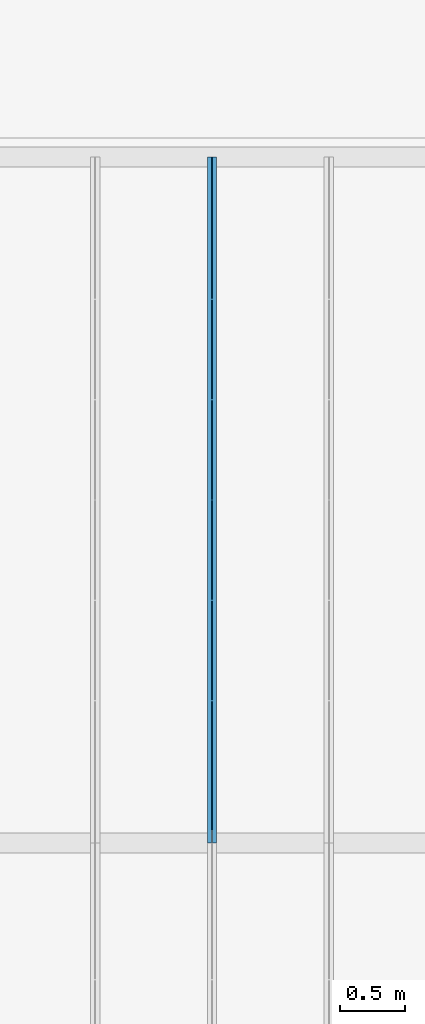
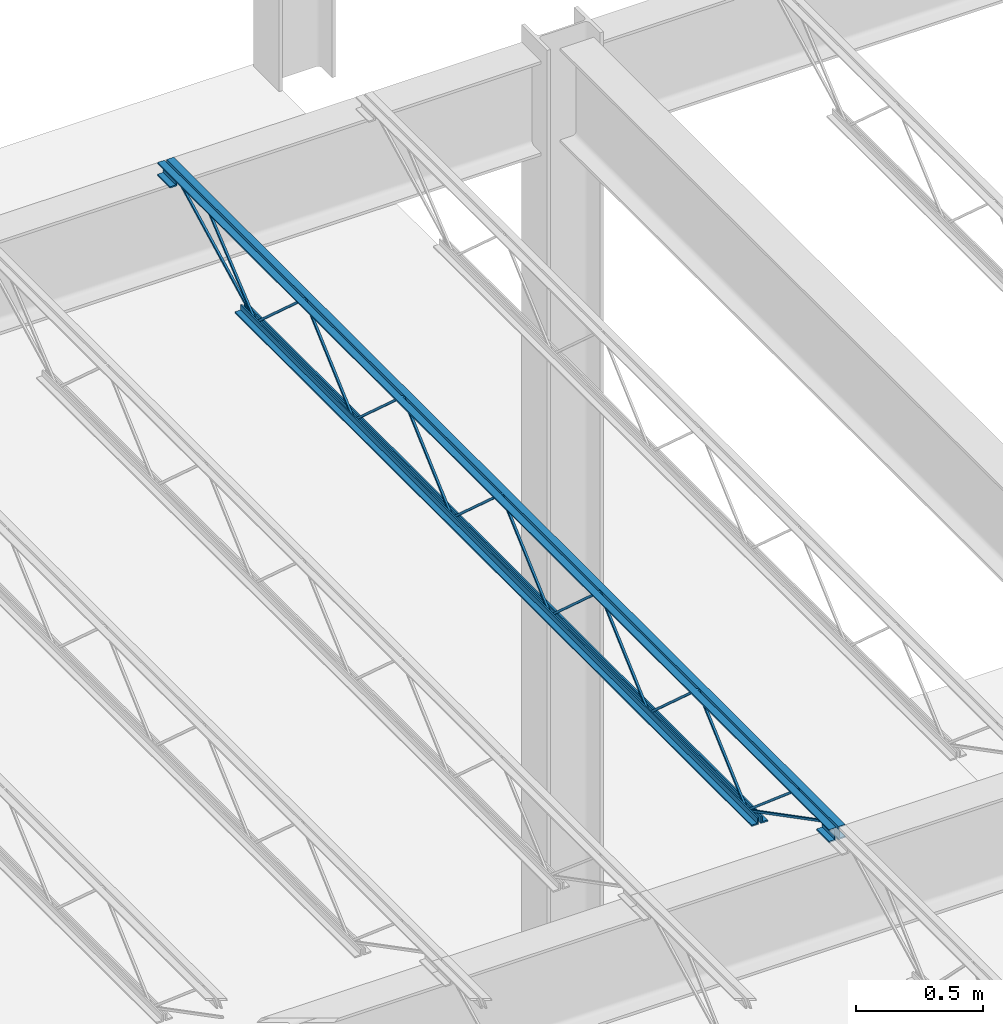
# One storey, part 79 of 119: 1 beam.
"""IFC2X3 building model written with IfcOpenShell, lengths in metres."""

from ifc_helpers import new_model, entity, si_unit, converted_unit, frame, origin, place, context, project, spatial, face_set, surface_model, element, save


model = new_model("IFC2X3")

# Units and contexts
model_context = context("Model", 3, precision=1e-09, world=origin())
plan_context = context("Plan", 3, precision=1e-09, world=origin())
ifc_project = project(units=[si_unit("LENGTHUNIT", "METRE"), si_unit("AREAUNIT", "SQUARE_METRE"), si_unit("VOLUMEUNIT", "CUBIC_METRE"), converted_unit("PLANEANGLEUNIT", "DEGREE", entity("IfcRatioMeasure", 0.01745329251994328), si_unit("PLANEANGLEUNIT", "RADIAN"), dimensions=[0, 0, 0, 0, 0, 0, 0]), si_unit("TIMEUNIT", "SECOND")], contexts=[model_context, plan_context])

# Site, building, storey
site_placement = place(None, origin())
site = spatial("IfcSite", under=ifc_project, at=site_placement, Name="Default", CompositionType="ELEMENT")
building_placement = place(site_placement, origin())
building = spatial("IfcBuilding", under=site, at=building_placement, CompositionType="ELEMENT")
storey_placement = place(building_placement, frame((0.0, 0.0, 4.570000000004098)))
storey = spatial("IfcBuildingStorey", under=building, at=storey_placement, Name="Second Floor", CompositionType="ELEMENT", Elevation=4.570000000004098)

# Beam
beam_placement = place(storey_placement, frame((-42.50817857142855, 44.78050000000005, 4.323999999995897), z_axis=(0.0, 0.0, 1.0), x_axis=(-1.0, 0.0, 0.0)))
element("IfcBeam", 1, at=beam_placement, inside=storey, Name="M_K-Series Bar Joist-Rod Web:14K1:14K1", ObjectType="M_K-Series Bar Joist-Rod Web:14K1", context=model_context, shape_type="SurfaceModel", body=[
    surface_model("IfcFaceBasedSurfaceModel", [(-0.0320000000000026, -2.266000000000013, 0.01110000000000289), (-0.0415000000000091, -2.266000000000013, 0.01110000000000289), (-0.0415000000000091, -2.266000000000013, 0.001600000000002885), (-0.0320000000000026, -2.266000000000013, 0.001600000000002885), (-0.04150000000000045, -2.264645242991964, 0.01110000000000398), (-0.0320000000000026, -2.264645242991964, 0.01110000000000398), (-0.04150000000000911, -2.26100475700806, 0.001600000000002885), (-0.04150000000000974, -1.878854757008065, 0.3449000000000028), (-0.04150000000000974, -1.876145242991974, 0.3449000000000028), (-0.04150000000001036, -1.493995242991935, 0.001600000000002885), (-0.04150000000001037, -1.489000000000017, 0.001600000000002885), (-0.04150000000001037, -1.489000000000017, 0.01110000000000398), (-0.04150000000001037, -1.490354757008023, 0.01110000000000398), (-0.04150000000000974, -1.872504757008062, 0.3544000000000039), (-0.04150000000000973, -1.882495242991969, 0.3544000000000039), (-0.03200000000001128, -2.26100475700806, 0.001600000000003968), (-0.03200000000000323, -1.878854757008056, 0.3449000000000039), (-0.03200000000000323, -1.876145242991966, 0.3449000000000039), (-0.03200000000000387, -1.493995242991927, 0.001600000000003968), (-0.03200000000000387, -1.489000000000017, 0.001600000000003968), (-0.03200000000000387, -1.489000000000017, 0.01110000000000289), (-0.03200000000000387, -1.490354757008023, 0.01110000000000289), (-0.03200000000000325, -1.872504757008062, 0.3544000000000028), (-0.03200000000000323, -1.882495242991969, 0.3544000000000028), (-0.03200000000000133, -3.04300000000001, 0.01110000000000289), (-0.04150000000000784, -3.04300000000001, 0.01110000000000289), (-0.04150000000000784, -3.04300000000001, 0.001600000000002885), (-0.03200000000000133, -3.04300000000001, 0.001600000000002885), (-0.04149999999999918, -3.041645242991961, 0.01110000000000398), (-0.03200000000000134, -3.041645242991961, 0.01110000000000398), (-0.04150000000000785, -3.038004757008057, 0.001600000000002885), (-0.04150000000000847, -2.655854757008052, 0.3449000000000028), (-0.04150000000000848, -2.653145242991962, 0.3449000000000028), (-0.0415000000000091, -2.270995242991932, 0.001600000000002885), (-0.0415000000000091, -2.266000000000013, 0.01110000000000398), (-0.0415000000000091, -2.26735475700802, 0.01110000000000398), (-0.04150000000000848, -2.649504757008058, 0.3544000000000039), (-0.04150000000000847, -2.659495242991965, 0.3544000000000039), (-0.03200000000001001, -3.038004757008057, 0.001600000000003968), (-0.03200000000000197, -2.655854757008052, 0.3449000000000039), (-0.03200000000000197, -2.653145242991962, 0.3449000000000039), (-0.0320000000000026, -2.270995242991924, 0.001600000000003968), (-0.0320000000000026, -2.266000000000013, 0.001600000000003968), (-0.0320000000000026, -2.26735475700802, 0.01110000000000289), (-0.03200000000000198, -2.649504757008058, 0.3544000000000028), (-0.03200000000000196, -2.659495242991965, 0.3544000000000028), (-0.03200000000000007, -3.820000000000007, 0.01110000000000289), (-0.04150000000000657, -3.820000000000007, 0.01110000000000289), (-0.04150000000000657, -3.820000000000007, 0.001600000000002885), (-0.03200000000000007, -3.820000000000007, 0.001600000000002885), (-0.04149999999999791, -3.818645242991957, 0.01110000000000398), (-0.03200000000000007, -3.818645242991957, 0.01110000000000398), (-0.04150000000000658, -3.815004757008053, 0.001600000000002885), (-0.0415000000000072, -3.432854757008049, 0.3449000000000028), (-0.04150000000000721, -3.430145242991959, 0.3449000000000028), (-0.04150000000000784, -3.04799524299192, 0.001600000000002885), (-0.04150000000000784, -3.043000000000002, 0.001600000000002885), (-0.04150000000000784, -3.04300000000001, 0.01110000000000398), (-0.04150000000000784, -3.044354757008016, 0.01110000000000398), (-0.04150000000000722, -3.426504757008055, 0.3544000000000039), (-0.0415000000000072, -3.436495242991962, 0.3544000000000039), (-0.03200000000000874, -3.815004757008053, 0.001600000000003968), (-0.0320000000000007, -3.432854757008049, 0.3449000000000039), (-0.0320000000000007, -3.430145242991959, 0.3449000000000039), (-0.03200000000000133, -3.04799524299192, 0.001600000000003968), (-0.03200000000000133, -3.04300000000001, 0.001600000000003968), (-0.03200000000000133, -3.043000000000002, 0.01110000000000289), (-0.03200000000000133, -3.044354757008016, 0.01110000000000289), (-0.03200000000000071, -3.426504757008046, 0.3544000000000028), (-0.0320000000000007, -3.436495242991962, 0.3544000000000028), (-0.03200000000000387, -1.489000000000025, 0.01109999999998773), (-0.04150000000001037, -1.489000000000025, 0.01109999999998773), (-0.04150000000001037, -1.489000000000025, 0.001599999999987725), (-0.03200000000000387, -1.489000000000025, 0.001599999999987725), (-0.04150000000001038, -1.487645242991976, 0.01109999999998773), (-0.03200000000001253, -1.487645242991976, 0.01109999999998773), (-0.04150000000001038, -1.484004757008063, 0.001599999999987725), (-0.04150000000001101, -1.101854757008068, 0.3448999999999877), (-0.04150000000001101, -1.099145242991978, 0.3448999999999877), (-0.04150000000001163, -0.7169952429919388, 0.001599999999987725), (-0.04150000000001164, -0.7120000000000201, 0.001599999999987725), (-0.04150000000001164, -0.7120000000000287, 0.01109999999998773), (-0.04150000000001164, -0.7133547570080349, 0.01109999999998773), (-0.04150000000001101, -1.095504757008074, 0.3543999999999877), (-0.04150000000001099, -1.10549524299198, 0.3543999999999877), (-0.03200000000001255, -1.484004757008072, 0.001599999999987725), (-0.03200000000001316, -1.101854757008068, 0.3448999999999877), (-0.03200000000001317, -1.099145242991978, 0.3448999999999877), (-0.03200000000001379, -0.7169952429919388, 0.001599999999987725), (-0.0320000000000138, -0.7120000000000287, 0.001599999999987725), (-0.03200000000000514, -0.7120000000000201, 0.01109999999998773), (-0.0320000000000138, -0.7133547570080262, 0.01109999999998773), (-0.03200000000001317, -1.095504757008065, 0.3543999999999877), (-0.03200000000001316, -1.105495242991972, 0.3543999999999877), (-0.0319999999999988, -4.597000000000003, 0.01110000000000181), (-0.0415000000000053, -4.597000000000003, 0.01110000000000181), (-0.0415000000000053, -4.597000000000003, 0.001600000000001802), (-0.0319999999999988, -4.597000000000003, 0.001600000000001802), (-0.04149999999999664, -4.595645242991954, 0.01110000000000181), (-0.0319999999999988, -4.595645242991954, 0.01110000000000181), (-0.04150000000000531, -4.592004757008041, 0.001600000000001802), (-0.04150000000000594, -4.209854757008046, 0.3449000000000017), (-0.04150000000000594, -4.207145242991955, 0.3449000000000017), (-0.04150000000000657, -3.824995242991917, 0.001600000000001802), (-0.04150000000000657, -3.819999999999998, 0.001600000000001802), (-0.04150000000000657, -3.820000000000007, 0.01110000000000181), (-0.04150000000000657, -3.821354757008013, 0.01110000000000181), (-0.04150000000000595, -4.203504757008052, 0.3544000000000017), (-0.04150000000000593, -4.213495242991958, 0.3544000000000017), (-0.03200000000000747, -4.592004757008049, 0.001600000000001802), (-0.03199999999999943, -4.209854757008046, 0.3449000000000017), (-0.03199999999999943, -4.207145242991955, 0.3449000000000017), (-0.03200000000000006, -3.824995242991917, 0.001600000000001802), (-0.03200000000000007, -3.820000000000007, 0.001600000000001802), (-0.03200000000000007, -3.819999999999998, 0.01110000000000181), (-0.03200000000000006, -3.821354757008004, 0.01110000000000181), (-0.03199999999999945, -4.203504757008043, 0.3544000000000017), (-0.03199999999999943, -4.213495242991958, 0.3544000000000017), (-0.0415000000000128, 0.0, 0.3559999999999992), (-0.07350000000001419, 0.0, 0.3559999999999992), (-0.07350000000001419, 0.0, 0.3494999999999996), (-0.04800000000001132, 0.0, 0.3494999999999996), (-0.04800000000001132, 0.0, 0.3239999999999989), (-0.0415000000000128, 0.0, 0.3239999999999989), (-0.03200000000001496, 0.0, 0.3559999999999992), (-0.03200000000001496, 0.0, 0.3239999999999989), (-0.02550000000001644, 0.0, 0.3239999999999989), (-0.02550000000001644, 0.0, 0.3494999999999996), (0.0, 0.0, 0.3494999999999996), (0.0, 0.0, 0.3559999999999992), (-0.04150000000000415, -5.309000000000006, 0.3559999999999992), (-0.07350000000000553, -5.309000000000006, 0.3559999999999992), (-0.07350000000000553, -5.309000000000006, 0.3494999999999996), (-0.04800000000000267, -5.309000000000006, 0.3494999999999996), (-0.04800000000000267, -5.309000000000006, 0.3239999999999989), (-0.04150000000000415, -5.309000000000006, 0.3239999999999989), (-0.0320000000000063, -5.309000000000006, 0.3559999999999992), (-0.0320000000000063, -5.309000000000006, 0.3239999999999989), (-0.02550000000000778, -5.309000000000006, 0.3239999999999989), (-0.02550000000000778, -5.309000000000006, 0.3494999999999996), (0.0, -5.309000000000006, 0.3494999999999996), (0.0, -5.309000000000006, 0.3559999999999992), (-0.0319999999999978, -5.20900000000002, 0.2924999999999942), (0.0, -5.20900000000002, 0.2924999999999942), (0.0, -5.20900000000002, 0.2989999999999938), (-0.02549999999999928, -5.20900000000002, 0.2989999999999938), (-0.02549999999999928, -5.20900000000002, 0.3239999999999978), (-0.0319999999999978, -5.20900000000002, 0.3239999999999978), (-0.07349999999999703, -5.20900000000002, 0.2924999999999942), (-0.04149999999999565, -5.20900000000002, 0.2924999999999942), (-0.04149999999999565, -5.20900000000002, 0.3239999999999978), (-0.04799999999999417, -5.20900000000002, 0.3239999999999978), (-0.04799999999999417, -5.20900000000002, 0.2989999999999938), (-0.07349999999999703, -5.20900000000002, 0.2989999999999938), (-0.03199999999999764, -5.309000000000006, 0.2924999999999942), (0.0, -5.309000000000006, 0.2924999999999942), (0.0, -5.309000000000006, 0.2989999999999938), (-0.02549999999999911, -5.309000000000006, 0.2989999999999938), (-0.02549999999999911, -5.309000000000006, 0.3239999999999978), (-0.03199999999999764, -5.309000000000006, 0.3239999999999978), (-0.07349999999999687, -5.309000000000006, 0.2924999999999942), (-0.04149999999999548, -5.309000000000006, 0.2924999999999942), (-0.04149999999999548, -5.309000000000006, 0.3239999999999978), (-0.04799999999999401, -5.309000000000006, 0.3239999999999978), (-0.04799999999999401, -5.309000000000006, 0.2989999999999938), (-0.07349999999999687, -5.309000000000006, 0.2989999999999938), (-0.04150000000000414, 0.0, 0.2924999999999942), (-0.04150000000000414, 0.0, 0.3239999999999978), (-0.04800000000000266, 0.0, 0.3239999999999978), (-0.04800000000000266, 0.0, 0.2989999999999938), (-0.07350000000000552, 0.0, 0.2989999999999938), (-0.07350000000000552, 0.0, 0.2924999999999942), (-0.0320000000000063, 0.0, 0.2924999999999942), (0.0, 0.0, 0.2924999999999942), (0.0, 0.0, 0.2989999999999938), (-0.02550000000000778, 0.0, 0.2989999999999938), (-0.02550000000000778, 0.0, 0.3239999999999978), (-0.0320000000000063, 0.0, 0.3239999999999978), (-0.04150000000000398, -0.1000000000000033, 0.2924999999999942), (-0.04150000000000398, -0.1000000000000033, 0.3239999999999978), (-0.0480000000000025, -0.1000000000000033, 0.3239999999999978), (-0.0480000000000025, -0.1000000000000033, 0.2989999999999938), (-0.07350000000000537, -0.1000000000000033, 0.2989999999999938), (-0.07350000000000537, -0.1000000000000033, 0.2924999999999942), (-0.03200000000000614, -0.1000000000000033, 0.2924999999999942), (0.0, -0.1000000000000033, 0.2924999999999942), (0.0, -0.1000000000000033, 0.2989999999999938), (-0.02550000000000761, -0.1000000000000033, 0.2989999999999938), (-0.02550000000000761, -0.1000000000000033, 0.3239999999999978), (-0.03200000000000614, -0.1000000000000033, 0.3239999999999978), (-0.0415000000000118, -0.6119999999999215, 0.0), (-0.0415000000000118, -0.6119999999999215, 0.03199999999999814), (-0.04800000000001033, -0.6119999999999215, 0.03199999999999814), (-0.04800000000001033, -0.6119999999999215, 0.006499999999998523), (-0.0735000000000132, -0.6119999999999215, 0.006499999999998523), (-0.0735000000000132, -0.6119999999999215, 0.0), (-0.03200000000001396, -0.6119999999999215, 0.0), (0.0, -0.6119999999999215, 0.0), (0.0, -0.6119999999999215, 0.006499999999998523), (-0.02550000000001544, -0.6119999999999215, 0.006499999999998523), (-0.02550000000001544, -0.6119999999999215, 0.03199999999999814), (-0.03200000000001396, -0.6119999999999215, 0.03199999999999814), (-0.04150000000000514, -4.696999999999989, 0.0), (-0.04150000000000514, -4.696999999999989, 0.03199999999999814), (-0.04800000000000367, -4.696999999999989, 0.03199999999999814), (-0.04800000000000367, -4.696999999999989, 0.006499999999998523), (-0.07350000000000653, -4.696999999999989, 0.006499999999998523), (-0.07350000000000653, -4.696999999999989, 0.0), (-0.0320000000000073, -4.696999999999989, 0.0), (0.0, -4.696999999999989, 0.0), (0.0, -4.696999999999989, 0.006499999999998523), (-0.02550000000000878, -4.696999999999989, 0.006499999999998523), (-0.02550000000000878, -4.696999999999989, 0.03199999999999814), (-0.0320000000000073, -4.696999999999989, 0.03199999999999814), (-0.03199999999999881, -4.594811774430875, 0.01056594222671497), (-0.0415000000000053, -4.594811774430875, 0.01056594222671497), (-0.0415000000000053, -4.599188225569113, 0.00213405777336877), (-0.03199999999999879, -4.599188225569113, 0.00213405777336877), (-0.0319999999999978, -5.207840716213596, 0.3287499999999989), (-0.03199999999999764, -5.308999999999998, 0.3287499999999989), (-0.03199999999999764, -5.308999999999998, 0.3192499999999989), (-0.03199999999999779, -5.210159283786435, 0.3192499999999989), (-0.04149999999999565, -5.210159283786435, 0.3192499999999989), (-0.0415000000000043, -5.207840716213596, 0.3287499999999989), (-0.04150000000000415, -5.308999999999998, 0.3287499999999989), (-0.04150000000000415, -5.309000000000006, 0.3192499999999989), (-0.03199999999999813, -5.005457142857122, 0.3417000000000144), (-0.04150000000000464, -5.005457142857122, 0.3417000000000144), (-0.04150000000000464, -5.005457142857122, 0.3322000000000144), (-0.03199999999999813, -5.005457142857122, 0.3322000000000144), (-0.041499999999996, -4.991034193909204, 0.3417000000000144), (-0.03199999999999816, -4.991034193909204, 0.3417000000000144), (-0.04150000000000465, -4.994480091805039, 0.3322000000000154), (-0.0415000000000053, -4.600045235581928, 0.002704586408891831), (-0.04150000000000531, -4.593954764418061, 0.009995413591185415), (-0.03200000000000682, -4.994480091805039, 0.3322000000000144), (-0.03199999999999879, -4.600045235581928, 0.002704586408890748), (-0.03199999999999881, -4.593954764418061, 0.009995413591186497), (-0.03200000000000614, -0.09781177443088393, 0.3197840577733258), (-0.03200000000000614, -0.1021882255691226, 0.328215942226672), (-0.04150000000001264, -0.1021882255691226, 0.328215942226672), (-0.04150000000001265, -0.09781177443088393, 0.3197840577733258), (-0.03200000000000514, -0.7098117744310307, 0.002134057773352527), (-0.03200000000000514, -0.7141882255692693, 0.01056594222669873), (-0.04150000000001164, -0.7141882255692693, 0.01056594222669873), (-0.04150000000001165, -0.7098117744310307, 0.002134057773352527), (-0.0320000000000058, -0.3059055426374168, 0.3460340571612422), (-0.0320000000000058, -0.3120658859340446, 0.35326594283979), (-0.04150000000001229, -0.3120658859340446, 0.3532659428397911), (-0.0415000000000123, -0.3059055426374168, 0.3460340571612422), (-0.03200000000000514, -0.7089198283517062, 0.002734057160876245), (-0.03200000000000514, -0.7150801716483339, 0.00996594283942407), (-0.04150000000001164, -0.7150801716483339, 0.00996594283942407), (-0.04150000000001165, -0.7089198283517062, 0.002734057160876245)], [face_set([[[0, 1, 2, 3]], [[1, 4, 5, 0]], [[2, 6, 7, 8, 9, 10, 11, 12, 13, 14, 4, 1]], [[3, 2, 6, 15]], [[0, 3, 15, 16, 17, 18, 19, 20, 21, 22, 23, 5]], [[4, 5, 23, 14]], [[15, 16, 7, 6]], [[14, 13, 22, 23]], [[16, 7, 8, 17]], [[13, 12, 21, 22]], [[17, 8, 9, 18]], [[20, 11, 10, 19]], [[12, 11, 20, 21]], [[18, 9, 10, 19]]]), face_set([[[24, 25, 26, 27]], [[25, 28, 29, 24]], [[26, 30, 31, 32, 33, 2, 34, 35, 36, 37, 28, 25]], [[27, 26, 30, 38]], [[24, 27, 38, 39, 40, 41, 42, 0, 43, 44, 45, 29]], [[28, 29, 45, 37]], [[38, 39, 31, 30]], [[37, 36, 44, 45]], [[39, 31, 32, 40]], [[36, 35, 43, 44]], [[40, 32, 33, 41]], [[0, 34, 2, 42]], [[35, 34, 0, 43]], [[41, 33, 2, 42]]]), face_set([[[46, 47, 48, 49]], [[47, 50, 51, 46]], [[48, 52, 53, 54, 55, 56, 57, 58, 59, 60, 50, 47]], [[49, 48, 52, 61]], [[46, 49, 61, 62, 63, 64, 65, 66, 67, 68, 69, 51]], [[50, 51, 69, 60]], [[61, 62, 53, 52]], [[60, 59, 68, 69]], [[62, 53, 54, 63]], [[59, 58, 67, 68]], [[63, 54, 55, 64]], [[66, 57, 56, 65]], [[58, 57, 66, 67]], [[64, 55, 56, 65]]]), face_set([[[70, 71, 72, 73]], [[71, 74, 75, 70]], [[72, 76, 77, 78, 79, 80, 81, 82, 83, 84, 74, 71]], [[73, 72, 76, 85]], [[70, 73, 85, 86, 87, 88, 89, 90, 91, 92, 93, 75]], [[74, 75, 93, 84]], [[85, 86, 77, 76]], [[84, 83, 92, 93]], [[86, 77, 78, 87]], [[83, 82, 91, 92]], [[87, 78, 79, 88]], [[90, 81, 80, 89]], [[82, 81, 90, 91]], [[88, 79, 80, 89]]]), face_set([[[94, 95, 96, 97]], [[95, 98, 99, 94]], [[96, 100, 101, 102, 103, 104, 105, 106, 107, 108, 98, 95]], [[97, 96, 100, 109]], [[94, 97, 109, 110, 111, 112, 113, 114, 115, 116, 117, 99]], [[98, 99, 117, 108]], [[109, 110, 101, 100]], [[108, 107, 116, 117]], [[110, 101, 102, 111]], [[107, 106, 115, 116]], [[111, 102, 103, 112]], [[114, 105, 104, 113]], [[106, 105, 114, 115]], [[112, 103, 104, 113]]]), face_set([[[118, 119, 120, 121, 122, 123]], [[124, 125, 126, 127, 128, 129]], [[130, 131, 132, 133, 134, 135]], [[136, 137, 138, 139, 140, 141]], [[123, 118, 130, 135]], [[122, 123, 135, 134]], [[121, 133, 134, 122]], [[120, 121, 133, 132]], [[119, 131, 132, 120]], [[118, 130, 131, 119]], [[129, 141, 136, 124]], [[128, 129, 141, 140]], [[127, 128, 140, 139]], [[126, 127, 139, 138]], [[125, 126, 138, 137]], [[124, 136, 137, 125]]]), face_set([[[142, 143, 144, 145, 146, 147]], [[148, 149, 150, 151, 152, 153]], [[154, 155, 156, 157, 158, 159]], [[160, 161, 162, 163, 164, 165]], [[147, 159, 154, 142]], [[146, 158, 159, 147]], [[145, 146, 158, 157]], [[144, 156, 157, 145]], [[143, 144, 156, 155]], [[142, 143, 155, 154]], [[153, 165, 160, 148]], [[152, 164, 165, 153]], [[151, 163, 164, 152]], [[150, 162, 163, 151]], [[149, 150, 162, 161]], [[148, 149, 161, 160]]]), face_set([[[166, 167, 168, 169, 170, 171]], [[172, 173, 174, 175, 176, 177]], [[178, 179, 180, 181, 182, 183]], [[184, 185, 186, 187, 188, 189]], [[171, 166, 178, 183]], [[170, 182, 183, 171]], [[169, 181, 182, 170]], [[168, 180, 181, 169]], [[167, 179, 180, 168]], [[166, 167, 179, 178]], [[177, 189, 184, 172]], [[176, 188, 189, 177]], [[175, 176, 188, 187]], [[174, 186, 187, 175]], [[173, 174, 186, 185]], [[172, 173, 185, 184]]]), face_set([[[190, 191, 192, 193, 194, 195]], [[196, 197, 198, 199, 200, 201]], [[202, 203, 204, 205, 206, 207]], [[208, 209, 210, 211, 212, 213]], [[195, 190, 202, 207]], [[194, 206, 207, 195]], [[193, 205, 206, 194]], [[192, 204, 205, 193]], [[191, 203, 204, 192]], [[190, 191, 203, 202]], [[201, 213, 208, 196]], [[200, 212, 213, 201]], [[199, 200, 212, 211]], [[198, 210, 211, 199]], [[197, 198, 210, 209]], [[196, 197, 209, 208]]]), face_set([[[214, 215, 216, 217]], [[217, 214, 218, 219, 220, 221]], [[216, 217, 221, 222]], [[215, 223, 224, 225, 222, 216]], [[214, 218, 223, 215]], [[219, 224, 225, 220]], [[222, 221, 220, 225]], [[218, 219, 224, 223]]]), face_set([[[226, 227, 228, 229]], [[227, 230, 231, 226]], [[228, 232, 233, 234, 230, 227]], [[229, 228, 232, 235]], [[226, 229, 235, 236, 237, 231]], [[237, 234, 233, 236]], [[230, 234, 237, 231]], [[235, 232, 233, 236]]]), face_set([[[238, 239, 240, 241]], [[242, 243, 244, 245]], [[241, 245, 242, 238]], [[240, 244, 245, 241]], [[239, 240, 244, 243]], [[238, 239, 243, 242]]]), face_set([[[246, 247, 248, 249]], [[250, 251, 252, 253]], [[249, 253, 250, 246]], [[248, 252, 253, 249]], [[247, 248, 252, 251]], [[246, 247, 251, 250]]])]),
])

save(model, "model.ifc")
